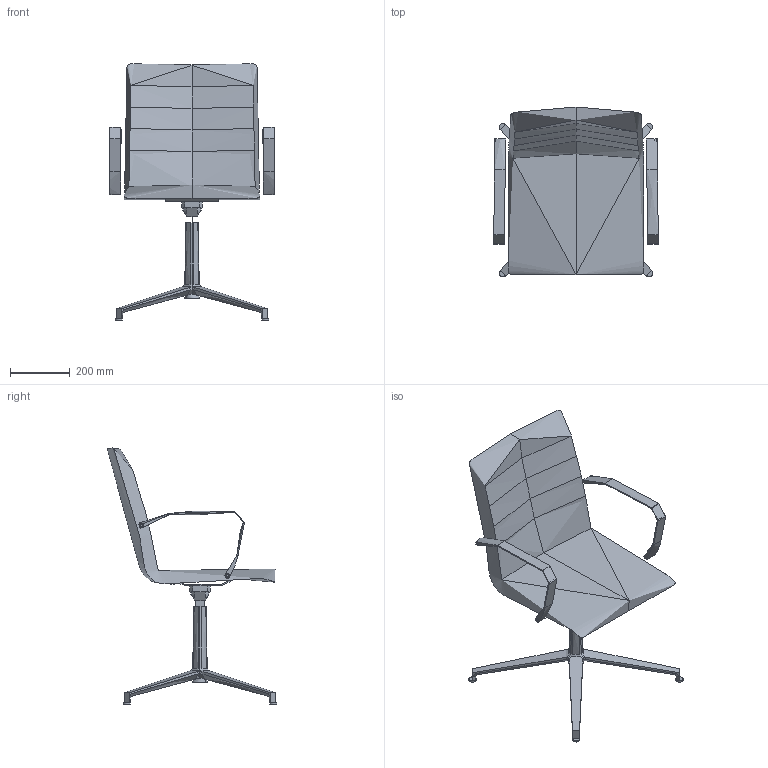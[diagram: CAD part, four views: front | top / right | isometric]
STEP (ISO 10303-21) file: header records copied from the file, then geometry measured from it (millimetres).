
FILE_DESCRIPTION(/* description */ (''),/* implementation_level */ '2;1');
FILE_NAME(/* name */ 'OSLO22~4',/* time_stamp */ '2017-08-07T21:07:09+02:00',/* author */ (''),/* organization */ (''),/* preprocessor_version */ 'ST-DEVELOPER v15',/* originating_system */ '',/* authorisation */ '');
FILE_SCHEMA (('CONFIG_CONTROL_DESIGN'));
Length unit declared in the file: millimetre
Products named in the file (1): Document
Bounding box: 553.21 x 569.62 x 861.69 mm (x, y, z)
Volume: 17611898.6 mm3; surface area: 1348803 mm2
Topology: 8 solids, 12 shells, 265 faces, 632 edges, 399 vertices
Faces by surface type: bspline 172, plane 93
Entity records: 14941 total; most frequent: CARTESIAN_POINT 11091, ORIENTED_EDGE 1240, EDGE_CURVE 629, VERTEX_POINT 395, B_SPLINE_CURVE_WITH_KNOTS 308, EDGE_LOOP 277, ADVANCED_FACE 265, FACE_OUTER_BOUND 265
